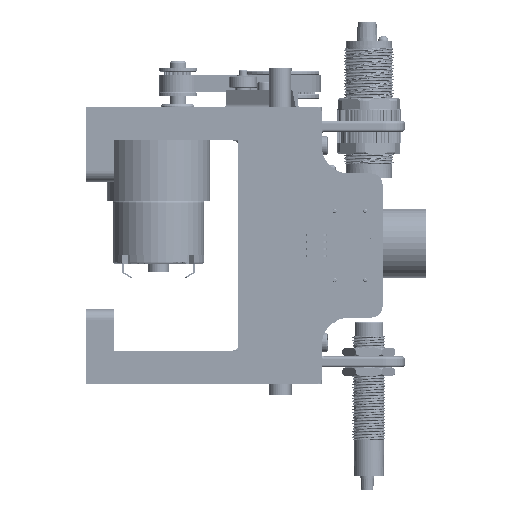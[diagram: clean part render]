
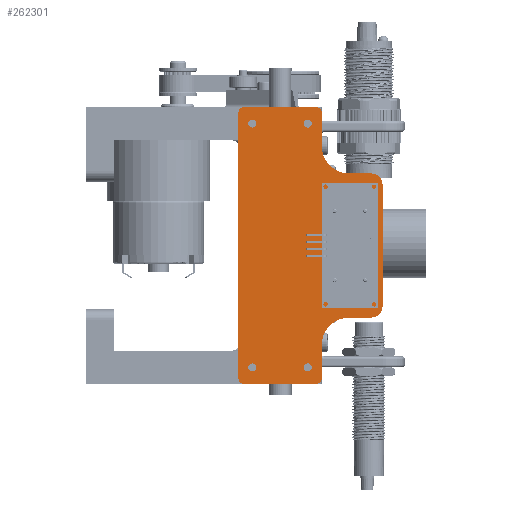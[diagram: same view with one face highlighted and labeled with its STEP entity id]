
A CAD part, left-side view. The second image highlights one B-rep face of the part: STEP entity #262301.
In plain terms, the highlighted planar face has unit normal (-1, 0, 0) as drawn and (1, 0, 0) by its records, which use the part's own axes.
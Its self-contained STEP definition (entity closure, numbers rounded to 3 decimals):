
#15676=FACE_BOUND('',#39861,.T.);
#15677=FACE_BOUND('',#39862,.T.);
#15678=FACE_BOUND('',#39863,.T.);
#15679=FACE_BOUND('',#39864,.T.);
#15680=FACE_BOUND('',#39865,.T.);
#15681=FACE_BOUND('',#39866,.T.);
#15682=FACE_BOUND('',#39867,.T.);
#25774=FACE_OUTER_BOUND('',#39860,.T.);
#39860=EDGE_LOOP('',(#207589,#207590,#207591,#207592,#207593,#207594,#207595,
#207596,#207597,#207598,#207599,#207600,#207601,#207602,#207603,#207604));
#39861=EDGE_LOOP('',(#207605));
#39862=EDGE_LOOP('',(#207606));
#39863=EDGE_LOOP('',(#207607));
#39864=EDGE_LOOP('',(#207608));
#39865=EDGE_LOOP('',(#207609));
#39866=EDGE_LOOP('',(#207610,#207611,#207612,#207613));
#39867=EDGE_LOOP('',(#207614));
#55118=CIRCLE('',#282865,1.45);
#55120=CIRCLE('',#282868,1.45);
#55122=CIRCLE('',#282871,1.45);
#55124=CIRCLE('',#282874,1.45);
#55126=CIRCLE('',#282877,10.);
#55129=CIRCLE('',#282882,10.);
#55130=CIRCLE('',#282885,4.);
#55139=CIRCLE('',#282897,4.);
#55140=CIRCLE('',#282899,8.);
#55141=CIRCLE('',#282905,8.);
#55142=CIRCLE('',#282908,2.);
#55143=CIRCLE('',#282911,2.);
#55144=CIRCLE('',#282914,2.);
#55145=CIRCLE('',#282915,2.);
#62983=LINE('',#514033,#88104);
#62990=LINE('',#514051,#88111);
#62994=LINE('',#514063,#88115);
#63006=LINE('',#514105,#88127);
#63008=LINE('',#514109,#88129);
#63010=LINE('',#514113,#88131);
#63012=LINE('',#514116,#88133);
#63014=LINE('',#514123,#88135);
#63019=LINE('',#514134,#88140);
#63022=LINE('',#514143,#88143);
#63024=LINE('',#514147,#88145);
#63025=LINE('',#514149,#88146);
#88104=VECTOR('',#323348,10.);
#88111=VECTOR('',#323363,10.);
#88115=VECTOR('',#323375,10.);
#88127=VECTOR('',#323413,10.);
#88129=VECTOR('',#323417,10.);
#88131=VECTOR('',#323421,10.);
#88133=VECTOR('',#323425,10.);
#88135=VECTOR('',#323433,10.);
#88140=VECTOR('',#323444,10.);
#88143=VECTOR('',#323453,10.);
#88145=VECTOR('',#323457,10.);
#88146=VECTOR('',#323460,10.);
#118098=VERTEX_POINT('',#513999);
#118100=VERTEX_POINT('',#514005);
#118102=VERTEX_POINT('',#514011);
#118104=VERTEX_POINT('',#514017);
#118106=VERTEX_POINT('',#514023);
#118107=VERTEX_POINT('',#514024);
#118110=VERTEX_POINT('',#514032);
#118114=VERTEX_POINT('',#514041);
#118115=VERTEX_POINT('',#514043);
#118117=VERTEX_POINT('',#514049);
#118118=VERTEX_POINT('',#514053);
#118121=VERTEX_POINT('',#514061);
#118136=VERTEX_POINT('',#514098);
#118137=VERTEX_POINT('',#514102);
#118138=VERTEX_POINT('',#514104);
#118139=VERTEX_POINT('',#514108);
#118140=VERTEX_POINT('',#514112);
#118141=VERTEX_POINT('',#514118);
#118142=VERTEX_POINT('',#514122);
#118143=VERTEX_POINT('',#514126);
#118144=VERTEX_POINT('',#514128);
#118145=VERTEX_POINT('',#514132);
#118146=VERTEX_POINT('',#514136);
#118147=VERTEX_POINT('',#514137);
#118148=VERTEX_POINT('',#514142);
#118149=VERTEX_POINT('',#514146);
#150052=EDGE_CURVE('',#118098,#118098,#55118,.T.);
#150055=EDGE_CURVE('',#118100,#118100,#55120,.T.);
#150058=EDGE_CURVE('',#118102,#118102,#55122,.T.);
#150061=EDGE_CURVE('',#118104,#118104,#55124,.T.);
#150064=EDGE_CURVE('',#118106,#118107,#55126,.T.);
#150068=EDGE_CURVE('',#118110,#118107,#62983,.T.);
#150073=EDGE_CURVE('',#118114,#118115,#55129,.T.);
#150077=EDGE_CURVE('',#118114,#118117,#62990,.T.);
#150078=EDGE_CURVE('',#118118,#118117,#55130,.T.);
#150083=EDGE_CURVE('',#118118,#118121,#62994,.T.);
#150100=EDGE_CURVE('',#118110,#118121,#55139,.T.);
#150101=EDGE_CURVE('',#118136,#118136,#55140,.T.);
#150104=EDGE_CURVE('',#118138,#118137,#63006,.T.);
#150106=EDGE_CURVE('',#118139,#118138,#63008,.T.);
#150108=EDGE_CURVE('',#118140,#118139,#63010,.T.);
#150110=EDGE_CURVE('',#118137,#118140,#63012,.T.);
#150111=EDGE_CURVE('',#118141,#118141,#55141,.T.);
#150113=EDGE_CURVE('',#118142,#118115,#63014,.T.);
#150116=EDGE_CURVE('',#118143,#118144,#55142,.T.);
#150119=EDGE_CURVE('',#118145,#118143,#63019,.T.);
#150120=EDGE_CURVE('',#118146,#118147,#55143,.T.);
#150123=EDGE_CURVE('',#118147,#118148,#63022,.T.);
#150125=EDGE_CURVE('',#118106,#118149,#63024,.T.);
#150126=EDGE_CURVE('',#118148,#118149,#55144,.T.);
#150127=EDGE_CURVE('',#118144,#118146,#63025,.T.);
#150128=EDGE_CURVE('',#118142,#118145,#55145,.T.);
#207589=ORIENTED_EDGE('',*,*,#150078,.F.);
#207590=ORIENTED_EDGE('',*,*,#150083,.T.);
#207591=ORIENTED_EDGE('',*,*,#150100,.F.);
#207592=ORIENTED_EDGE('',*,*,#150068,.T.);
#207593=ORIENTED_EDGE('',*,*,#150064,.F.);
#207594=ORIENTED_EDGE('',*,*,#150125,.T.);
#207595=ORIENTED_EDGE('',*,*,#150126,.F.);
#207596=ORIENTED_EDGE('',*,*,#150123,.F.);
#207597=ORIENTED_EDGE('',*,*,#150120,.F.);
#207598=ORIENTED_EDGE('',*,*,#150127,.F.);
#207599=ORIENTED_EDGE('',*,*,#150116,.F.);
#207600=ORIENTED_EDGE('',*,*,#150119,.F.);
#207601=ORIENTED_EDGE('',*,*,#150128,.F.);
#207602=ORIENTED_EDGE('',*,*,#150113,.T.);
#207603=ORIENTED_EDGE('',*,*,#150073,.F.);
#207604=ORIENTED_EDGE('',*,*,#150077,.T.);
#207605=ORIENTED_EDGE('',*,*,#150052,.T.);
#207606=ORIENTED_EDGE('',*,*,#150055,.T.);
#207607=ORIENTED_EDGE('',*,*,#150058,.T.);
#207608=ORIENTED_EDGE('',*,*,#150061,.T.);
#207609=ORIENTED_EDGE('',*,*,#150101,.T.);
#207610=ORIENTED_EDGE('',*,*,#150110,.T.);
#207611=ORIENTED_EDGE('',*,*,#150108,.T.);
#207612=ORIENTED_EDGE('',*,*,#150106,.T.);
#207613=ORIENTED_EDGE('',*,*,#150104,.T.);
#207614=ORIENTED_EDGE('',*,*,#150111,.T.);
#249215=PLANE('',#282913);
#262301=ADVANCED_FACE('',(#25774,#15676,#15677,#15678,#15679,#15680,#15681,
#15682),#249215,.T.);
#282865=AXIS2_PLACEMENT_3D('',#514000,#323312,#323313);
#282868=AXIS2_PLACEMENT_3D('',#514006,#323319,#323320);
#282871=AXIS2_PLACEMENT_3D('',#514012,#323326,#323327);
#282874=AXIS2_PLACEMENT_3D('',#514018,#323333,#323334);
#282877=AXIS2_PLACEMENT_3D('',#514025,#323340,#323341);
#282882=AXIS2_PLACEMENT_3D('',#514044,#323356,#323357);
#282885=AXIS2_PLACEMENT_3D('',#514054,#323366,#323367);
#282897=AXIS2_PLACEMENT_3D('',#514096,#323403,#323404);
#282899=AXIS2_PLACEMENT_3D('',#514099,#323407,#323408);
#282905=AXIS2_PLACEMENT_3D('',#514119,#323428,#323429);
#282908=AXIS2_PLACEMENT_3D('',#514129,#323438,#323439);
#282911=AXIS2_PLACEMENT_3D('',#514138,#323447,#323448);
#282913=AXIS2_PLACEMENT_3D('',#514145,#323455,#323456);
#282914=AXIS2_PLACEMENT_3D('',#514148,#323458,#323459);
#282915=AXIS2_PLACEMENT_3D('',#514150,#323461,#323462);
#323312=DIRECTION('center_axis',(-1.,0.,0.));
#323313=DIRECTION('ref_axis',(0.,0.,1.));
#323319=DIRECTION('center_axis',(-1.,0.,0.));
#323320=DIRECTION('ref_axis',(0.,0.,1.));
#323326=DIRECTION('center_axis',(-1.,0.,0.));
#323327=DIRECTION('ref_axis',(0.,0.,-1.));
#323333=DIRECTION('center_axis',(-1.,0.,0.));
#323334=DIRECTION('ref_axis',(0.,0.,-1.));
#323340=DIRECTION('center_axis',(1.,0.,0.));
#323341=DIRECTION('ref_axis',(0.,-0.707,-0.707));
#323348=DIRECTION('',(0.,-1.,0.));
#323356=DIRECTION('center_axis',(1.,0.,0.));
#323357=DIRECTION('ref_axis',(0.,-0.707,0.707));
#323363=DIRECTION('',(0.,1.,0.));
#323366=DIRECTION('center_axis',(-1.,0.,0.));
#323367=DIRECTION('ref_axis',(0.,0.707,-0.707));
#323375=DIRECTION('',(0.,0.,1.));
#323403=DIRECTION('center_axis',(-1.,0.,0.));
#323404=DIRECTION('ref_axis',(0.,0.707,0.707));
#323407=DIRECTION('center_axis',(-1.,0.,0.));
#323408=DIRECTION('ref_axis',(0.,0.,-1.));
#323413=DIRECTION('',(0.,1.,0.));
#323417=DIRECTION('',(0.,0.,1.));
#323421=DIRECTION('',(0.,-1.,0.));
#323425=DIRECTION('',(0.,0.,-1.));
#323428=DIRECTION('center_axis',(-1.,0.,0.));
#323429=DIRECTION('ref_axis',(0.,0.,-1.));
#323433=DIRECTION('',(0.,0.,1.));
#323438=DIRECTION('center_axis',(-1.,0.,0.));
#323439=DIRECTION('ref_axis',(0.,-0.707,-0.707));
#323444=DIRECTION('',(0.,-1.,0.));
#323447=DIRECTION('center_axis',(-1.,0.,0.));
#323448=DIRECTION('ref_axis',(0.,-0.707,0.707));
#323453=DIRECTION('',(0.,1.,0.));
#323455=DIRECTION('center_axis',(1.,0.,0.));
#323456=DIRECTION('ref_axis',(0.,1.,0.));
#323457=DIRECTION('',(0.,0.,1.));
#323458=DIRECTION('center_axis',(-1.,0.,0.));
#323459=DIRECTION('ref_axis',(0.,0.707,0.707));
#323460=DIRECTION('',(0.,0.,1.));
#323461=DIRECTION('center_axis',(-1.,0.,0.));
#323462=DIRECTION('ref_axis',(0.,0.707,-0.707));
#513999=CARTESIAN_POINT('',(0.,5.,-45.45));
#514000=CARTESIAN_POINT('Origin',(0.,5.,-44.));
#514005=CARTESIAN_POINT('',(0.,25.,-45.45));
#514006=CARTESIAN_POINT('Origin',(0.,25.,-44.));
#514011=CARTESIAN_POINT('',(0.,5.,45.45));
#514012=CARTESIAN_POINT('Origin',(0.,5.,44.));
#514017=CARTESIAN_POINT('',(0.,25.,45.45));
#514018=CARTESIAN_POINT('Origin',(0.,25.,44.));
#514023=CARTESIAN_POINT('',(0.,30.,36.));
#514024=CARTESIAN_POINT('',(0.,40.,26.));
#514025=CARTESIAN_POINT('Origin',(0.,40.,36.));
#514032=CARTESIAN_POINT('',(0.,48.,26.));
#514033=CARTESIAN_POINT('',(0.,30.,26.));
#514041=CARTESIAN_POINT('',(0.,40.,-26.));
#514043=CARTESIAN_POINT('',(0.,30.,-36.));
#514044=CARTESIAN_POINT('Origin',(0.,40.,-36.));
#514049=CARTESIAN_POINT('',(0.,48.,-26.));
#514051=CARTESIAN_POINT('',(0.,52.,-26.));
#514053=CARTESIAN_POINT('',(0.,52.,-22.));
#514054=CARTESIAN_POINT('Origin',(0.,48.,-22.));
#514061=CARTESIAN_POINT('',(0.,52.,22.));
#514063=CARTESIAN_POINT('',(0.,52.,26.));
#514096=CARTESIAN_POINT('Origin',(0.,48.,22.));
#514098=CARTESIAN_POINT('',(0.,40.2,-4.95));
#514099=CARTESIAN_POINT('Origin',(0.,40.2,-12.95));
#514102=CARTESIAN_POINT('',(0.,49.869,5.75));
#514104=CARTESIAN_POINT('',(0.,45.057,5.75));
#514105=CARTESIAN_POINT('',(0.,49.869,5.75));
#514108=CARTESIAN_POINT('',(0.,45.057,-5.75));
#514109=CARTESIAN_POINT('',(0.,45.057,5.75));
#514112=CARTESIAN_POINT('',(0.,49.869,-5.75));
#514113=CARTESIAN_POINT('',(0.,45.057,-5.75));
#514116=CARTESIAN_POINT('',(0.,49.869,-5.75));
#514118=CARTESIAN_POINT('',(0.,40.2,20.95));
#514119=CARTESIAN_POINT('Origin',(0.,40.2,12.95));
#514122=CARTESIAN_POINT('',(0.,30.,-48.));
#514123=CARTESIAN_POINT('',(0.,30.,0.));
#514126=CARTESIAN_POINT('',(0.,2.,-50.));
#514128=CARTESIAN_POINT('',(0.,0.,-48.));
#514129=CARTESIAN_POINT('Origin',(0.,2.,-48.));
#514132=CARTESIAN_POINT('',(0.,28.,-50.));
#514134=CARTESIAN_POINT('',(0.,0.,-50.));
#514136=CARTESIAN_POINT('',(0.,0.,48.));
#514137=CARTESIAN_POINT('',(0.,2.,50.));
#514138=CARTESIAN_POINT('Origin',(0.,2.,48.));
#514142=CARTESIAN_POINT('',(0.,28.,50.));
#514143=CARTESIAN_POINT('',(0.,0.,50.));
#514145=CARTESIAN_POINT('Origin',(0.,0.,0.));
#514146=CARTESIAN_POINT('',(0.,30.,48.));
#514147=CARTESIAN_POINT('',(0.,30.,0.));
#514148=CARTESIAN_POINT('Origin',(0.,28.,48.));
#514149=CARTESIAN_POINT('',(0.,0.,0.));
#514150=CARTESIAN_POINT('Origin',(0.,28.,-48.));
